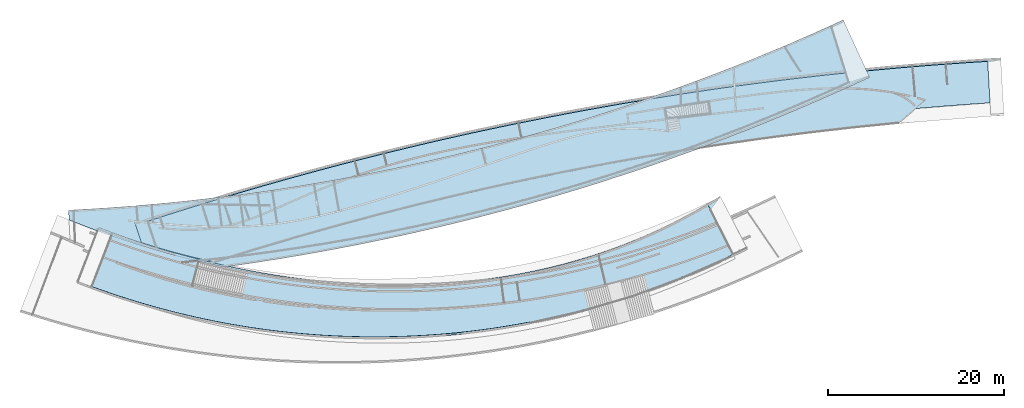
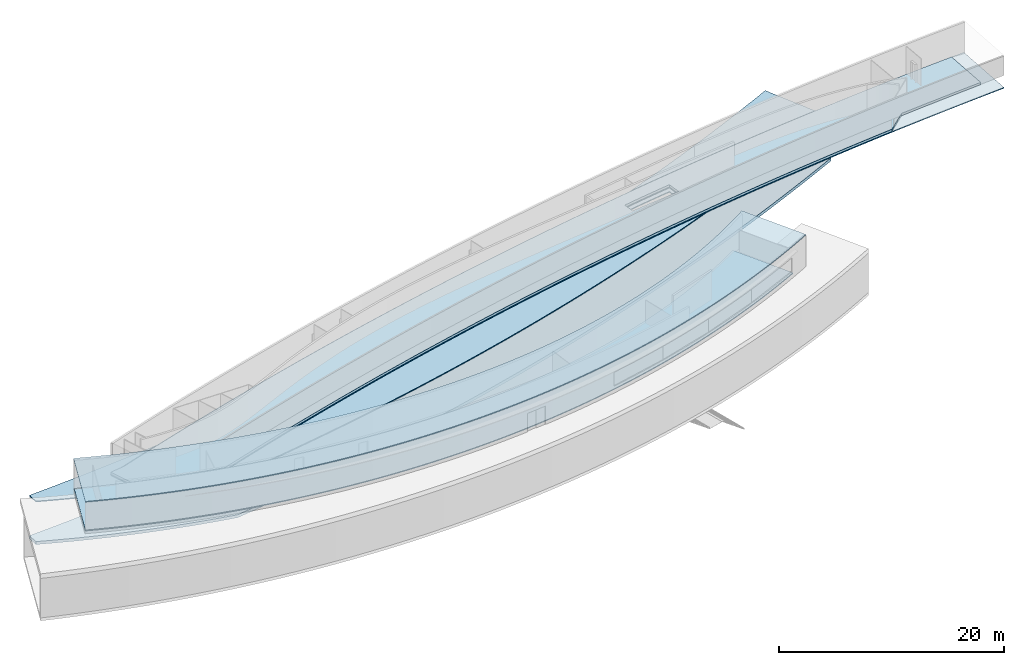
# Not in any storey, part 2 of 14: 6 slabs, 3 openings.
"""IFC2X3 model written with IfcOpenShell, lengths in millimetres."""

from ifc_helpers import new_model, entity, si_unit, converted_unit, point, direction, frame, frame_2d, origin_with_axes, place, context, project, spatial, polyline, circle_curve, trimmed, segment, composite_curve, outline, extrude, material, layer, layer_set, layer_usage, type_object, element, save


model = new_model("IFC2X3")

# Units and contexts
model_context = context("Model", 3, precision=1.0, world=origin_with_axes(), true_north=direction((0.0, 1.0)))
ifc_project = project(units=[si_unit("LENGTHUNIT", "METRE", prefix="MILLI"), converted_unit("PLANEANGLEUNIT", "DEGREE", entity("IfcRatioMeasure", 0.017453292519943), si_unit("PLANEANGLEUNIT", "RADIAN"), dimensions=[0, 0, 0, 0, 0, 0, 0])], contexts=[model_context])

# Site
site_placement = place(None, origin_with_axes())
site = spatial("IfcSite", under=ifc_project, at=site_placement, Name="Site", CompositionType="ELEMENT")

# Slab, opening
ifc_material_1 = material(Name="Slab layer 1")
ifc_layer_1 = layer(ifc_material_1, 100.0)
ifc_layer_set_1 = layer_set([ifc_layer_1], Name="HOKI slab")
ifc_layer_usage_1 = layer_usage(ifc_layer_set_1, "AXIS3", "POSITIVE", 0.0)
slab_type_1 = type_object("IfcSlabType", Name="HOKI slab", PredefinedType="FLOOR", material=ifc_layer_set_1)
slab_1_placement = place(site_placement, frame((3621.7635944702, 2346.43372640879, 9500.0), z_axis=(0.0, 0.0, 1.0), x_axis=(-0.314163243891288, 0.949368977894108, 0.0)))
slab_1 = element("IfcSlab", 1, at=slab_1_placement, inside=site, type_object=slab_type_1, material=ifc_layer_usage_1, ObjectType="HOKI slab", PredefinedType="FLOOR", context=model_context, shape_type="SweptSolid", body=[
    extrude(outline(composite_curve([segment(trimmed(circle_curve(frame_2d((77694.7546866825, 1566.21736680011), x_axis=(-0.808762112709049, -0.588135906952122)), 86999.4495816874), [point((7332.89603847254, -49601.282817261))], [point((2583.86268449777, -42334.3308091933))], False, "CARTESIAN"), True, "CONTINUOUS"), segment(trimmed(circle_curve(frame_2d((-370285.190292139, -47138.426872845), x_axis=(0.999917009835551, 0.012883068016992)), 372900.00000896), [point((2583.86268449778, -42334.3308091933))], [point((-9701.81800888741, 47909.148790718))], True, "CARTESIAN"), True, "CONTINUOUS"), segment(polyline([(-9701.81800888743, 47909.148790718), (-3414.75654121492, 49601.2800711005)]), True, "CONTINUOUS"), segment(trimmed(circle_curve(frame_2d((-371998.181991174, -49601.2828172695), x_axis=(0.965636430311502, 0.259896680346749)), 381700.000000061), [point((-3414.75654121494, 49601.2800711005))], [point((9701.81800888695, -49601.2828172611))], False, "CARTESIAN"), True, "CONTINUOUS"), segment(polyline([(9701.81800888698, -49601.2828172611), (7332.89603847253, -49601.282817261)]), True, "DISCONTINUOUS")], self_intersect="UNKNOWN")), frame((0.0, 0.0, 0.0), z_axis=(0.0, 0.0, -1.0), x_axis=(1.0, 0.0, 0.0)), (0.0, 0.0, -1.0), 100.0),
])
opening_1_placement = place(site_placement, frame((3621.7635944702, 2346.43372640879, 9500.0), z_axis=(0.0, 0.0, 1.0), x_axis=(-0.314163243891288, 0.949368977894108, 0.0)))
element("IfcOpeningElement", 2, at=opening_1_placement, cuts=slab_1, context=model_context, shape_type="SweptSolid", body=[
    extrude(outline(composite_curve([segment(polyline([(959.189956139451, 16393.0604175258), (1469.10116317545, 13917.0193540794), (1986.22217422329, 11442.474787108)]), True, "CONTINUOUS"), segment(polyline([(1986.22217422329, 11442.474787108), (3088.23376370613, 11621.1429729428)]), True, "CONTINUOUS"), segment(polyline([(3088.23376370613, 11621.1429729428), (2983.21095442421, 12299.6455998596), (2882.86761115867, 12934.2628800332), (2784.65300548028, 13539.4553996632), (2686.01640895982, 14129.6837449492), (2584.40709316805, 14719.4085020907), (2477.27432967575, 15323.0902572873), (2362.06739005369, 15955.1895967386), (2236.23554587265, 16630.1671066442)]), True, "CONTINUOUS"), segment(polyline([(2236.23554587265, 16630.1671066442), (959.189956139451, 16393.0604175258)]), True, "CONTINUOUS")], self_intersect="UNKNOWN")), frame((0.0, 0.0, 0.0), z_axis=(0.0, 0.0, -1.0), x_axis=(1.0, 0.0, 0.0)), (0.0, 0.0, -1.0), 100.0),
])

# Slabs
slab_2_placement = place(site_placement, frame((-14212.4869987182, -6851.92983886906, 13000.0), z_axis=(0.0, 0.0, 1.0), x_axis=(0.360286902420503, 0.932841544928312, 0.0)))
element("IfcSlab", 3, at=slab_2_placement, inside=site, type_object=slab_type_1, material=ifc_layer_usage_1, ObjectType="HOKI slab", PredefinedType="FLOOR", context=model_context, shape_type="SweptSolid", body=[
    extrude(outline(composite_curve([segment(polyline([(17603.7709650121, 29650.4520037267), (17150.6447368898, 29308.1526553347), (16700.8862868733, 28962.0018691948), (16254.4384006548, 28611.9618190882), (15811.2438639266, 28257.9946787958), (15371.245462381, 27900.0626220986), (14934.3859817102, 27538.1278227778), (14500.6082076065, 27172.1524546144), (14069.8549257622, 26802.0986913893), (13636.2265014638, 26422.7664773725), (13206.2987554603, 26039.7695945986), (12780.0135672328, 25653.0686020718), (12357.3128162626, 25262.624058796), (11938.1383820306, 24868.3965237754), (11522.4321440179, 24470.346556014), (11110.1359817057, 24068.4347145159), (10701.191774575, 23662.6215582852), (10301.7512461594, 23259.1887137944), (9906.07584708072, 22852.5114019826), (9514.11211438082, 22442.5520753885), (9125.80658510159, 22029.2731865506), (8741.10579628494, 21612.6371880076), (8359.95628497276, 21192.6065322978), (7982.30458820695, 20769.14367196), (7608.0972430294, 20342.2110595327), (7232.02398440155, 19905.6091226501), (6859.9581536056, 19466.0074097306), (6491.84658678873, 19023.3670970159), (6127.63612009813, 18577.6493607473), (5767.27358968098, 18128.8153771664), (5410.70583168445, 17676.8263225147), (5057.87968225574, 17221.6433730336), (4708.74197754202, 16763.2277049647), (4368.53120937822, 16308.6660041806), (4032.28205075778, 15851.5259206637), (3699.94663324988, 15391.7709066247), (3371.4770884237, 14929.3644142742), (3046.82554784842, 14464.2698958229), (2725.94414309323, 13996.4508034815), (2408.7850057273, 13525.8705894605), (2095.30026731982, 13052.4927059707), (1781.12732679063, 12569.5830027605), (1471.06439393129, 12084.3610702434), (1165.06487767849, 11596.7895163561), (863.082186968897, 11106.8309490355), (565.0697307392, 10614.4479762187), (270.980917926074, 10119.6032058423), (-19.2308425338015, 9622.25924584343), (-305.612141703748, 9122.37870415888), (-583.891782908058, 8627.66373893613), (-858.194201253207, 8131.02146500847), (-1128.56051928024, 7632.41699595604), (-1395.03185953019, 7131.81544535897), (-1657.64934454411, 6629.1819267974), (-1916.45409686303, 6124.48155385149), (-2171.48723902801, 5617.67944010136), (-2422.78989358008, 5108.74069912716), (-2673.57673569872, 4591.00851564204), (-2920.32041237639, 4071.60762589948), (-3163.06007577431, 3550.5027409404), (-3401.83487805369, 3027.65857180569), (-3636.68397137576, 2503.03982953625), (-3867.64650790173, 1976.61122517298), (-4094.76163979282, 1448.3374697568), (-4318.06851921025, 918.183274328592), (-4535.1185709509, 392.196480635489), (-4748.28264375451, -135.141531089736), (-4957.59509223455, -663.863833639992), (-5163.09027100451, -1194.00349980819), (-5364.80253467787, -1725.59360238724), (-5562.76623786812, -2258.66721417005), (-5757.01573518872, -2793.25740794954), (-5947.58538125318, -3329.3972565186), (-6136.56211090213, -3873.10032603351), (-6321.65085912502, -4417.91886698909), (-6502.88361272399, -4963.88593196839), (-6680.29235850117, -5511.03457355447), (-6853.90908325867, -6059.3978443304), (-7023.76577379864, -6609.00879687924), (-7189.89441692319, -7159.90048378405), (-7352.32699943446, -7712.1059576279), (-7509.28459528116, -8259.27383211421), (-7662.54225903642, -8807.29637137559), (-7812.1276007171, -9356.20435984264), (-7958.06823034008, -9906.028581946), (-8100.39175792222, -10456.7998221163), (-8239.12579348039, -11008.5488647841), (-8374.29794703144, -11561.3064943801), (-8505.93582859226, -12115.1034953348), (-8635.16064230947, -12674.787312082), (-8760.72944214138, -13235.1219989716), (-8882.66735949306, -13796.1379477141), (-9000.99952576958, -14357.86555002), (-9115.75107237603, -14920.3351975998), (-9226.94713071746, -15483.5772821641), (-9334.61283219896, -16047.6221954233), (-9438.77330822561, -16612.5003290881), (-9538.6940182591, -17173.90821119), (-9635.12779761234, -17735.7639103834), (-9728.09625803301, -18298.0959438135), (-9817.62101126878, -18860.9328286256), (-9903.72366906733, -19424.3030819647), (-9986.42584317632, -19988.2352209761), (-10065.7491453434, -20552.7577628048), (-10141.7151873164, -21117.8992245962), (-10214.7586819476, -21686.9989017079), (-10284.3902805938, -22256.3748017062), (-10350.6291790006, -22826.054746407), (-10413.4945729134, -23396.0665576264), (-10473.0056580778, -23966.4380571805), (-10529.1816302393, -24537.1970668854), (-10582.0416851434, -25108.3714085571), (-10631.6050185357, -25679.9889040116), (-10677.6337103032, -26248.8048565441), (-10720.4044793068, -26817.7375871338), (-10759.9336437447, -27386.8132836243), (-10796.2375218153, -27956.0581338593), (-10829.3324317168, -28525.4983256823), (-10859.2346916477, -29095.1600469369), (-10885.9606198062, -29665.0694854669), (-10909.5265343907, -30235.2528291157), (-10929.9999105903, -30807.3147414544), (-10947.3111916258, -31379.3522537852), (-10961.4739893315, -31951.3906493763), (-10972.5019155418, -32523.4552114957), (-10980.4085820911, -33095.5712234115), (-10985.2076008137, -33667.7639683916), (-10986.912583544, -34240.0587297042), (-10985.5371421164, -34812.4807906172)]), True, "CONTINUOUS"), segment(polyline([(-10985.5371421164, -34812.4807906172), (-17751.7840041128, -34812.4807906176)]), True, "CONTINUOUS"), segment(trimmed(circle_curve(frame_2d((75548.0420855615, -34632.3373394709), x_axis=(-0.999998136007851, -0.001930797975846)), 93300.0000001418), [point((-17751.7840041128, -34812.4807906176))], [point((13239.8786163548, 34812.4807906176))], False, "CARTESIAN"), True, "CONTINUOUS"), segment(polyline([(13239.8786163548, 34812.4807906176), (17751.9579145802, 29761.062725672)]), True, "CONTINUOUS"), segment(trimmed(circle_curve(frame_2d((19236.3233163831, 27617.8651342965), x_axis=(-0.569368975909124, 0.822082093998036)), 2607.03597246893), [point((17751.9579145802, 29761.062725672))], [point((17603.7709650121, 29650.4520037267))], True, "CARTESIAN"), True, "CONTINUOUS")], self_intersect="UNKNOWN")), frame((0.0, 0.0, 0.0), z_axis=(0.0, 0.0, -1.0), x_axis=(1.0, 0.0, 0.0)), (0.0, 0.0, -1.0), 100.0),
])
slab_3_placement = place(site_placement, frame((-15010.2227622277, -7151.38533449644, 9750.0), z_axis=(0.0, 0.0, 1.0), x_axis=(0.360286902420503, 0.932841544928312, 0.0)))
element("IfcSlab", 4, at=slab_3_placement, inside=site, type_object=slab_type_1, material=ifc_layer_usage_1, ObjectType="HOKI slab", PredefinedType="FLOOR", context=model_context, shape_type="SweptSolid", body=[
    extrude(outline(composite_curve([segment(polyline([(-10462.325030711, -34125.3527928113), (-16965.022833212, -34125.8253313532)]), True, "CONTINUOUS"), segment(trimmed(circle_curve(frame_2d((76086.30836667, -33991.4409287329), x_axis=(-0.999998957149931, -0.001444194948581)), 93051.4282385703), [point((-16965.022833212, -34125.8253313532))], [point((12693.8305791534, 34125.8260246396))], False, "CARTESIAN"), True, "CONTINUOUS"), segment(polyline([(12693.8305791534, 34125.8260246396), (16965.1198719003, 29365.3116457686)]), True, "CONTINUOUS"), segment(polyline([(16965.1198719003, 29365.3116457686), (16530.9583822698, 29020.5375136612), (16100.2119564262, 28672.0468384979), (15672.8212943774, 28319.8050097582), (15248.7270961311, 27963.7774169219), (14827.8700616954, 27603.9294494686), (14410.190891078, 27240.226496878), (13995.630284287, 26872.6339486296), (13584.1289413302, 26501.1171942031), (13169.0632849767, 26119.5477194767), (12757.720357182, 25734.4690597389), (12350.0399450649, 25345.8455885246), (11945.9618357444, 24953.6416793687), (11545.4258163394, 24557.8217058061), (11148.371673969, 24158.3500413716), (10754.7391957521, 23755.1910596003), (10364.4681688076, 23348.309134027), (9984.36815368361, 22945.0153821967), (9607.98627132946, 22538.668561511), (9235.2680989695, 22129.2355084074), (8866.1592138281, 21716.6830593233), (8500.6051931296, 21300.9780506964), (8138.55161409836, 20882.0873189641), (7779.94405395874, 20459.977700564), (7424.72808993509, 20034.6160319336), (7066.93583250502, 19598.6963095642), (6713.06968768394, 19159.972985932), (6363.07569133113, 18718.4119559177), (6016.89987930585, 18273.979114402), (5674.4882874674, 17826.6403562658), (5335.78695167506, 17376.3615763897), (5000.74190778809, 16923.1086696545), (4669.2991916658, 16466.8475309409), (4347.2367897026, 16015.7763825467), (4028.98646791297, 15562.3336384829), (3714.50052106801, 15106.4878027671), (3403.73124393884, 14648.2073794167), (3096.63093129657, 14187.4608724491), (2793.15187791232, 13724.2167858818), (2493.24637855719, 13258.4436237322), (2196.8667280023, 12790.1098900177), (1899.1396860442, 12311.3503054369), (1605.34045173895, 11830.4735989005), (1315.4227244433, 11347.4476349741), (1029.34020351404, 10862.2402782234), (747.046588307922, 10374.8193932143), (468.49557818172, 9885.15284451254), (193.6408724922, 9393.20849668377), (-77.5638294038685, 8898.95421429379), (-340.67690101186, 8410.75364908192), (-600.04264105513, 7920.80739691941), (-855.701336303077, 7429.08588589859), (-1107.6932735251, 6935.55954411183), (-1356.0587394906, 6440.19879965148), (-1600.83802096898, 5942.97408060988), (-1842.07140472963, 5443.85581507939), (-2079.79917754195, 4942.81443115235), (-2317.61026105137, 4432.12153708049), (-2551.63187706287, 3919.91881661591), (-2781.90231763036, 3406.17639538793), (-3008.45987480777, 2890.86439902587), (-3231.34284064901, 2373.95295315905), (-3450.589507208, 1855.4121834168), (-3666.23816653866, 1335.21221542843), (-3878.32711069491, 813.323174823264), (-4083.78469028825, 297.592936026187), (-4285.65889719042, -219.347851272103), (-4483.98272584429, -737.526677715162), (-4678.78917069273, -1256.97103394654), (-4870.1112261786, -1777.7084106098), (-5057.98188674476, -2299.76629834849), (-5242.43414683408, -2823.17218780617), (-5423.50100088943, -3347.95356962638), (-5603.53358223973, -3881.08430289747), (-5779.99343759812, -4415.21941778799), (-5952.91130756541, -4950.38637814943), (-6122.31793274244, -5486.61264783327), (-6288.24405373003, -6023.92569069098), (-6450.720411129, -6562.35297057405), (-6609.77774554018, -7101.92195133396), (-6765.44679756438, -7642.66009682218), (-6915.86224890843, -8177.77559483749), (-7062.90735694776, -8713.66355397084), (-7206.60847436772, -9250.34932431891), (-7346.99195385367, -9787.85825597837), (-7484.08414809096, -10326.2156990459), (-7617.91140976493, -10865.4470036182), (-7748.50009156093, -11405.5775197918), (-7875.87654616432, -11946.6325976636), (-8001.35985969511, -12494.3669347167), (-8123.51865000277, -13042.6997579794), (-8242.37699715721, -13591.6561072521), (-8357.95898122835, -14141.2610223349), (-8470.28868228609, -14691.5395430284), (-8579.39018040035, -15242.5167091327), (-8685.28755564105, -15794.2175604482), (-8788.00488807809, -16346.6671367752), (-8886.6135936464, -16894.5193155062), (-8982.07922038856, -17442.7933242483), (-9074.42235731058, -17991.5124106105), (-9163.66359341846, -18540.6998222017), (-9249.82351771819, -19090.378806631), (-9332.92271921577, -19640.5726115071), (-9412.98178691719, -20191.304484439), (-9490.02130982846, -20742.5976730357), (-9564.61305613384, -21298.682999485), (-9636.12982642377, -21855.0463253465), (-9704.59005984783, -22411.7103660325), (-9770.0121955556, -22968.6978369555), (-9832.41467269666, -23526.0314535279), (-9891.81593042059, -24083.7339311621), (-9948.23440787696, -24641.8279852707), (-10001.6885442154, -25200.3363312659), (-10051.8708399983, -25755.5822608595), (-10099.1309317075, -26310.9712420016), (-10143.4845423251, -26866.5245308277), (-10184.9473948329, -27422.2633834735), (-10223.5352122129, -27978.2090560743), (-10259.263717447, -28534.3828047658), (-10292.1486335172, -29090.8058856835), (-10322.2056834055, -29647.4995549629), (-10349.5664232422, -30206.9977992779), (-10374.0874695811, -30766.5215631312), (-10395.7821232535, -31326.0914310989), (-10414.6636850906, -31885.7279877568), (-10430.7454559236, -32445.451817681), (-10444.0407365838, -33005.2835054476), (-10454.5628279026, -33565.2436356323), (-10462.325030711, -34125.3527928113)]), True, "DISCONTINUOUS")], self_intersect="UNKNOWN")), frame((0.0, 0.0, 0.0), z_axis=(0.0, 0.0, -1.0), x_axis=(1.0, 0.0, 0.0)), (0.0, 0.0, -1.0), 100.0),
])

# Slab, opening
slab_4_placement = place(site_placement, frame((-8554.18100427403, 4610.54567842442, 9000.0), z_axis=(0.0, 0.0, 1.0), x_axis=(0.998764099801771, 0.049701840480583, 0.0)))
slab_4 = element("IfcSlab", 5, at=slab_4_placement, inside=site, type_object=slab_type_1, material=ifc_layer_usage_1, ObjectType="HOKI slab", PredefinedType="FLOOR", context=model_context, shape_type="SweptSolid", body=[
    extrude(outline(composite_curve([segment(polyline([(-28482.034138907, -12258.127817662), (-29039.7497541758, -12113.7449270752), (-29596.4551607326, -11966.1036282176), (-30152.1794664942, -11815.1957356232), (-30706.9517793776, -11661.0130638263), (-31260.8012072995, -11503.5474273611), (-31813.756858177, -11342.7906407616), (-32365.8478399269, -11178.7345185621), (-32917.103260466, -11011.3708752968), (-33467.3586793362, -10840.7506716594), (-34016.4507842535, -10666.9235260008), (-34564.4082639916, -10489.8798871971), (-35111.2598073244, -10309.6102041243), (-35657.0341030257, -10126.1049256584), (-36201.7598398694, -9939.35450067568), (-36745.4657066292, -9749.34937805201), (-37288.1803920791, -9556.08000666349), (-37829.7418014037, -9359.60516387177), (-38369.9894056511, -9159.98204995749), (-38908.9514091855, -8957.19976657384), (-39446.6560163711, -8751.24741537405), (-39983.1314315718, -8542.11409801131), (-40518.4058591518, -8329.78891613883), (-41052.5075034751, -8114.26097140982), (-41585.464568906, -7895.51936547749), (-42117.1169105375, -7673.6309063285), (-42647.307907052, -7448.65991240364), (-43176.065215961, -7220.59416493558), (-43703.4164947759, -6989.42144515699), (-44229.389401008, -6755.12953430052), (-44754.0115921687, -6517.70621359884), (-45277.3107257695, -6277.13926428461), (-45799.3144593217, -6033.41646759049)]), True, "CONTINUOUS"), segment(polyline([(-45799.3144593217, -6033.41646759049), (-45799.3144593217, -4945.70925283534)]), True, "CONTINUOUS"), segment(trimmed(circle_curve(frame_2d((-45799.3144593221, 233454.290747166), x_axis=(2e-15, -1.0)), 238400.000000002), [point((-45799.3144593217, -4945.70925283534))], [point((43120.9729067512, 12258.1278176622))], True, "CARTESIAN"), True, "CONTINUOUS"), segment(polyline([(43120.9729067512, 12258.1278176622), (45799.312693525, 5595.54320667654)]), True, "CONTINUOUS"), segment(trimmed(circle_curve(frame_2d((-50450.6649880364, 242596.770621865), x_axis=(0.376270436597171, -0.92650988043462)), 255800.000000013), [point((45799.312693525, 5595.54320667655))], [point((-28482.034138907, -12258.127817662))], False, "CARTESIAN"), True, "DISCONTINUOUS")], self_intersect="UNKNOWN")), origin_with_axes(), (0.0, 0.0, 1.0), 100.0),
])
opening_2_placement = place(site_placement, frame((-8554.18100427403, 4610.54567842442, 9000.0), z_axis=(0.0, 0.0, 1.0), x_axis=(0.998764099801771, 0.049701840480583, 0.0)))
element("IfcOpeningElement", 6, at=opening_2_placement, cuts=slab_4, context=model_context, shape_type="SweptSolid", body=[
    extrude(outline(composite_curve([segment(polyline([(27592.4536858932, 2428.21557487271), (25070.0831753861, 2259.58641174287), (22547.2329447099, 2098.30508122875)]), True, "CONTINUOUS"), segment(polyline([(22547.2329447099, 2098.30508122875), (22425.6503434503, 3208.06610733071)]), True, "CONTINUOUS"), segment(polyline([(22425.6503434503, 3208.06610733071), (23107.5960450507, 3287.72579143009), (23745.997107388, 3360.19621601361), (24355.4707877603, 3426.87400480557), (24950.6343434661, 3489.15578153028), (25546.1050318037, 3548.43816991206), (26156.5001100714, 3606.11779367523), (26796.4368355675, 3663.59127654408), (27480.5324655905, 3722.25524224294)]), True, "CONTINUOUS"), segment(polyline([(27480.5324655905, 3722.25524224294), (27592.4536858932, 2428.21557487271)]), True, "CONTINUOUS")], self_intersect="UNKNOWN")), origin_with_axes(), (0.0, 0.0, 1.0), 100.0),
])

# Slab
ifc_material_2 = material(Name="Slab layer 1")
ifc_layer_2 = layer(ifc_material_2, 320.0)
ifc_layer_set_2 = layer_set([ifc_layer_2], Name="HOKI 1FB")
ifc_layer_usage_2 = layer_usage(ifc_layer_set_2, "AXIS3", "POSITIVE", 0.0)
slab_type_2 = type_object("IfcSlabType", Name="HOKI 1FB", PredefinedType="FLOOR", material=ifc_layer_set_2)
slab_5_placement = place(site_placement, frame((-8754.21113930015, 4849.41274341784, 4400.00566737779), z_axis=(0.0, 0.0, 1.0), x_axis=(-0.908151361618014, -0.418641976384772, 0.0)))
element("IfcSlab", 7, at=slab_5_placement, inside=site, type_object=slab_type_2, material=ifc_layer_usage_2, ObjectType="HOKI 1FB", PredefinedType="FLOOR", context=model_context, shape_type="SweptSolid", body=[
    extrude(outline(composite_curve([segment(polyline([(30917.1379127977, -1050.75309881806), (31380.7536258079, -708.76830784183), (31842.2166840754, -364.137043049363), (32301.5510419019, -16.8408527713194), (32758.7806535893, 333.138714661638), (33213.9294734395, 685.820110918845), (33667.0214557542, 1041.22178766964), (34118.0805548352, 1399.36219658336), (34567.1307249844, 1760.25978932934), (35014.0384000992, 2123.8059484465), (35458.6705601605, 2489.89372274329), (35901.0502612, 2858.54267466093), (36341.2005592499, 3229.7723666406), (36779.1445103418, 3603.60236112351), (37214.9051705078, 3980.05222055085), (37648.5055957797, 4359.14150736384), (38079.9688421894, 4740.88978400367), (38509.1664355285, 5125.18205531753), (38935.9707662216, 5511.90537347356), (39360.4039383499, 5901.08037023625), (39782.4880559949, 6292.72767737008), (40202.2452232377, 6686.86792663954), (40619.6975441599, 7083.52174980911), (41034.8671228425, 7482.70977864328), (41447.7760633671, 7884.45264490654), (41858.3006960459, 8288.62862963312), (42266.319691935, 8695.11963800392), (42671.8541552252, 9103.94732294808), (43074.9251901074, 9515.13333739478), (43475.5539007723, 9928.69933427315), (43873.7613914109, 10344.6669665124), (44269.5687662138, 10763.0578870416), (44662.9971293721, 11183.8937487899)]), True, "CONTINUOUS"), segment(polyline([(44662.9971293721, 11183.8937487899), (44257.295627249, 12193.1079362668)]), True, "CONTINUOUS"), segment(trimmed(circle_curve(frame_2d((-44662.9917388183, 233389.27086574), x_axis=(0.372987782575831, -0.927836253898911)), 238399.999999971), [point((44257.295627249, 12193.1079362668))], [point((-44662.991738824, -5010.72913423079))], False, "CARTESIAN"), True, "CONTINUOUS"), segment(polyline([(-44662.991738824, -5010.72913423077), (-44662.994434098, -12191.5046827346)]), True, "CONTINUOUS"), segment(trimmed(circle_curve(frame_2d((-43757.3333843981, 243606.892063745), x_axis=(-0.003540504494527, -0.999993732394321)), 255800.000000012), [point((-44662.994434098, -12191.5046827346))], [point((30917.1379127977, -1050.75309881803))], True, "CARTESIAN"), True, "DISCONTINUOUS")], self_intersect="UNKNOWN")), frame((0.0, 0.0, 0.0), z_axis=(0.0, 0.0, -1.0), x_axis=(1.0, 0.0, 0.0)), (0.0, 0.0, -1.0), 320.0),
])

# Slab, opening
ifc_material_3 = material(Name="Slab layer 1")
ifc_layer_3 = layer(ifc_material_3, 250.0)
ifc_layer_set_3 = layer_set([ifc_layer_3], Name="HOKI 1FA")
ifc_layer_usage_3 = layer_usage(ifc_layer_set_3, "AXIS3", "POSITIVE", 0.0)
slab_type_3 = type_object("IfcSlabType", Name="HOKI 1FA", PredefinedType="FLOOR", material=ifc_layer_set_3)
slab_6_placement = place(site_placement, frame((2780.78436530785, 3413.85656819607, 9600.0), z_axis=(0.0, 0.0, 1.0), x_axis=(0.758316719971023, 0.651886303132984, 0.0)))
slab_6 = element("IfcSlab", 8, at=slab_6_placement, inside=site, type_object=slab_type_3, material=ifc_layer_usage_3, ObjectType="HOKI 1FA", PredefinedType="FLOOR", context=model_context, shape_type="SweptSolid", body=[
    extrude(outline(composite_curve([segment(polyline([(-43134.2446879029, 24303.6770664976), (-42847.8859466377, 23841.4942266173), (-42558.8573401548, 23381.4110076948), (-42267.1411506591, 22923.401377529), (-41972.7196603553, 22467.4393039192), (-41675.5751514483, 22013.4987546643), (-41375.6899061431, 21561.5536975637), (-41073.0462066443, 21111.5781004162), (-40767.6263351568, 20663.5459310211), (-40459.4125738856, 20217.4311571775), (-40148.3872050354, 19773.2077466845), (-39834.532510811, 19330.8496673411), (-39517.8307734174, 18890.3308869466), (-39198.2642750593, 18451.6253733), (-38875.8152979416, 18014.7070942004), (-38550.4661242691, 17579.550017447), (-38222.1990362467, 17146.1281108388)]), True, "CONTINUOUS"), segment(polyline([(-38222.1990362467, 17146.1281108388), (-37083.9096156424, 16658.0973505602), (-35947.4638923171, 16166.3890365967), (-34812.8432887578, 15670.9946501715), (-33680.0292274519, 15171.9056725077), (-32549.0031308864, 14669.1135848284), (-31419.7464215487, 14162.6098683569), (-30292.240521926, 13652.3860043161), (-29166.4668545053, 13138.4334739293), (-28042.4068417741, 12620.7437584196), (-26920.0419062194, 12099.3083390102), (-25799.3534703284, 11574.1186969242), (-24680.3229565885, 11045.1663133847), (-23562.9317874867, 10512.4426696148), (-22447.1613855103, 9975.9392468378), (-21332.9931731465, 9435.64752627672), (-20220.4085728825, 8891.55898915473), (-19110.0153888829, 8343.97409330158), (-18001.6570673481, 7792.8171250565), (-16895.3155276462, 7238.07860155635), (-15790.9726891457, 6679.74903993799), (-14688.6104712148, 6117.81895733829), (-13588.2107932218, 5552.27887089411), (-12489.7555745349, 4983.11929774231), (-11393.2267345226, 4410.33075501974), (-10298.606192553, 3833.90375986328), (-9205.8758679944, 3253.82882940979), (-8115.0176802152, 2670.09648079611), (-7026.01354858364, 2082.69723115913), (-5938.84539246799, 1491.62159763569), (-4853.49513123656, 896.860097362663), (-3769.94468425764, 298.403247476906), (-2688.17597089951, -303.758434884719), (-1607.66664528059, -909.919660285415), (-529.382092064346, -1519.5445977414), (546.695276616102, -2132.64369812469), (1620.58304862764, -2749.22741230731), (2692.29881183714, -3369.30619116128), (3761.8601541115, -3992.89048555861), (4829.28466331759, -4619.99074637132), (5894.5899273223, -5250.61742447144), (6957.79353399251, -5884.78097073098), (8018.9130711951, -6522.49183602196), (9077.96612679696, -7163.7604712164), (10134.970288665, -7808.59732718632), (11189.943144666, -8457.01285480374), (12242.902282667, -9109.01750494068), (13293.8652905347, -9764.62172846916), (14342.8497561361, -10423.8359762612), (15389.2829100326, -11086.2968821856), (16433.3122049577, -11752.0962134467), (17474.9546316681, -12421.245328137), (18514.2271809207, -13093.7555843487), (19551.1468434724, -13769.6383401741), (20585.7306100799, -14448.9049537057), (21617.9954715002, -15131.5667830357), (22647.95841849, -15817.6351862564), (23675.6364418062, -16507.1215214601), (24701.0465322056, -17200.0371467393), (25724.2056804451, -17896.3934201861), (26745.1308772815, -18596.201699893), (27763.8391134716, -19299.4733439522), (28780.3473797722, -20006.2197104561), (29794.6726669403, -20716.452157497), (30806.8319657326, -21430.1820431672)]), True, "CONTINUOUS"), segment(polyline([(30806.8319657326, -21430.1820431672), (33393.2957560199, -21430.1820431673)]), True, "CONTINUOUS"), segment(polyline([(33393.2957560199, -21430.1820431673), (34258.6765356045, -22051.7777806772), (35122.2327067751, -22675.7954298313), (35983.9747021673, -23302.2426428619), (36843.9129544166, -23931.1270720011), (37702.0578961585, -24562.4563694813), (38558.4199600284, -25196.2381875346), (39413.0095786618, -25832.4801783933), (40265.8371846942, -26471.1899942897)]), True, "CONTINUOUS"), segment(polyline([(40265.8371846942, -26471.1899942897), (43134.2446879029, -22724.5666063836)]), True, "CONTINUOUS"), segment(polyline([(43134.2446879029, -22724.5666063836), (41921.1471086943, -21807.1718487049), (40704.547089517, -20894.7290439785), (39484.4154153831, -19987.216735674), (38260.7228713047, -19084.6134672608), (37033.4402422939, -18186.8977822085), (35802.5383133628, -17294.0482239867), (34567.9878695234, -16406.0433360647), (33329.7596957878, -15522.8616619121), (32088.0214999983, -14644.6218435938), (30842.9405689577, -13771.4431677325), (29594.4870194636, -12903.3051185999), (28342.630968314, -12040.1871804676), (27087.3425323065, -11182.0688376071), (25828.591828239, -10328.9295742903), (24566.3489729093, -9480.74887478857), (23300.5840831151, -8637.5062233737), (22031.4685751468, -7799.31486102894), (20759.1734430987, -6966.28867362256), (19483.6681646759, -6138.40810890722), (18204.9222175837, -5315.65361463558), (16922.905079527, -4498.00563856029), (15637.586228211, -3685.444628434), (14348.9351413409, -2877.95103200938), (13056.9212966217, -2075.50529703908), (11761.7087607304, -1278.20847627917), (10463.4828976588, -486.175697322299), (9162.21257630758, 300.611609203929), (7857.86666557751, 1082.17201267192), (6550.41403436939, 1858.52408245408), (5239.823551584, 2629.6863879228), (3926.06408612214, 3395.6774984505), (2609.10450688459, 4156.51598340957), (1289.14524429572, 4912.0871431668), (-33.6578373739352, 5662.30101758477), (-1359.33644399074, 6407.17517290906), (-2687.92228142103, 7146.72717538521), (-4019.44705553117, 7880.97459125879), (-5353.9424721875, 8609.93498677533), (-6691.44023725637, 9333.62592818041), (-8031.97205660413, 10052.0649817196), (-9375.36780555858, 10765.1617861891), (-10721.4351165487, 11472.8132430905), (-12070.206240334, 12175.0358990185), (-13421.7134276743, 12871.846300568), (-14775.9889293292, 13563.260994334), (-16133.0649960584, 14249.2965269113), (-17492.9738786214, 14929.9694448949), (-18855.7478277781, 15605.2962948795), (-20221.202365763, 16275.1865454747), (-21589.1534427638, 16939.5490169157), (-22959.6338208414, 17598.3992188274), (-24332.6762620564, 18251.7526608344), (-25708.3135284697, 18899.6248525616), (-27086.5783821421, 19542.0313036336), (-28467.5035851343, 20178.9875236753), (-29851.1218995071, 20810.5090223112), (-31237.2459029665, 21436.5111269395), (-32625.688883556, 22056.9086425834), (-34016.4840803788, 22671.71602813), (-35409.6647325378, 23280.9477424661), (-36805.2640791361, 23884.6182444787), (-38203.3153592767, 24482.7419930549), (-39603.8518120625, 25075.3334470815), (-41006.9066765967, 25662.4070654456)]), True, "CONTINUOUS"), segment(polyline([(-41006.9066765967, 25662.4070654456), (-42242.0255929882, 26471.1899942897)]), True, "CONTINUOUS"), segment(polyline([(-42242.0255929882, 26471.1899942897), (-43134.2446879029, 24303.6770664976)]), True, "CONTINUOUS")], self_intersect="UNKNOWN")), origin_with_axes(), (0.0, 0.0, 1.0), 250.0),
])
opening_3_placement = place(site_placement, frame((2780.78436530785, 3413.85656819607, 9600.0), z_axis=(0.0, 0.0, 1.0), x_axis=(0.758316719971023, 0.651886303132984, 0.0)))
element("IfcOpeningElement", 9, at=opening_3_placement, cuts=slab_6, context=model_context, shape_type="SweptSolid", body=[
    extrude(outline(composite_curve([segment(polyline([(15466.0101336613, -6710.62717157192), (13370.4581065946, -5296.60790409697), (11279.0343000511, -3876.49121332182)]), True, "CONTINUOUS"), segment(polyline([(11279.0343000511, -3876.49121332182), (11863.7281729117, -2925.44708236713)]), True, "CONTINUOUS"), segment(polyline([(11863.7281729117, -2925.44708236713), (12451.1774097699, -3280.83278736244), (12999.8261583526, -3615.18653642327), (13522.075504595, -3936.37139742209), (14030.3265344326, -4252.2504382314), (14536.9803338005, -4570.68672672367), (15054.437988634, -4899.54333077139), (15595.1005848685, -5246.68331824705), (16171.3692084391, -5619.96975702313)]), True, "CONTINUOUS"), segment(polyline([(16171.3692084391, -5619.96975702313), (15466.0101336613, -6710.62717157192)]), True, "CONTINUOUS")], self_intersect="UNKNOWN")), origin_with_axes(), (0.0, 0.0, 1.0), 250.0),
])

save(model, "model.ifc")
